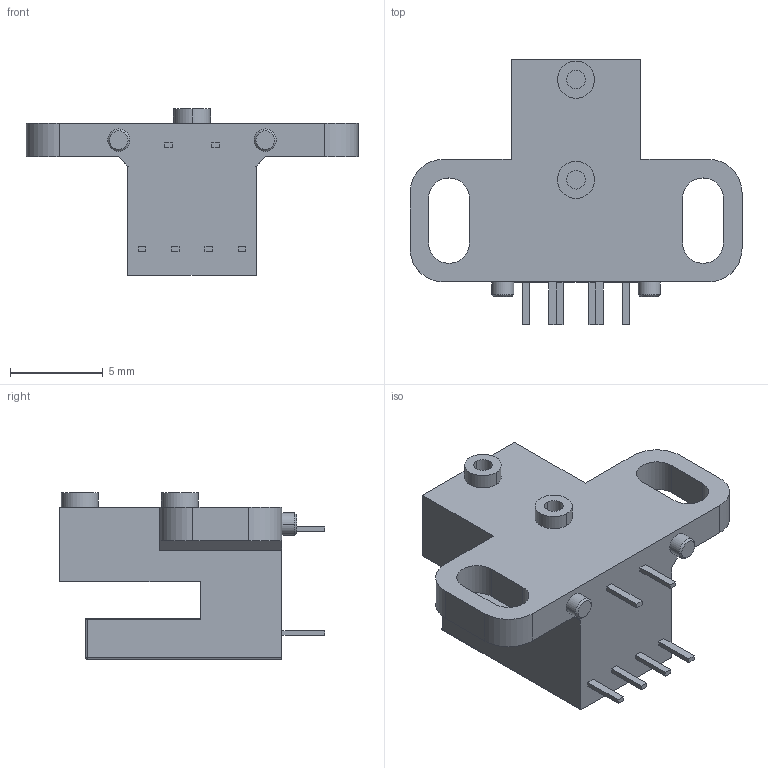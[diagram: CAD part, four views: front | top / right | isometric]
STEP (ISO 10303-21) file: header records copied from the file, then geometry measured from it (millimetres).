
FILE_DESCRIPTION (( 'STEP AP214' ), '1' );
FILE_NAME ('RK眻褒湍嫉嗡.STEP', '2024-05-30T02:57:03', ( 'dell' ), ( '' ), 'SwSTEP 2.0', 'SolidWorks 2021', '' );
FILE_SCHEMA (( 'AUTOMOTIVE_DESIGN' ));
Length unit declared in the file: millimetre
Products named in the file (1): RK眻褒湍嫉嗡
Bounding box: 17.9 x 14.3 x 9 mm (x, y, z)
Volume: 660.4 mm3; surface area: 745.6 mm2
Topology: 7 solids, 7 shells, 106 faces, 245 edges, 158 vertices
Faces by surface type: plane 69, cylinder 31, cone 4, sphere 2
Entity records: 4237 total; most frequent: DIRECTION 519, CARTESIAN_POINT 514, ORIENTED_EDGE 486, EDGE_CURVE 243, LINE 177, VECTOR 177, AXIS2_PLACEMENT_3D 171, VERTEX_POINT 158
